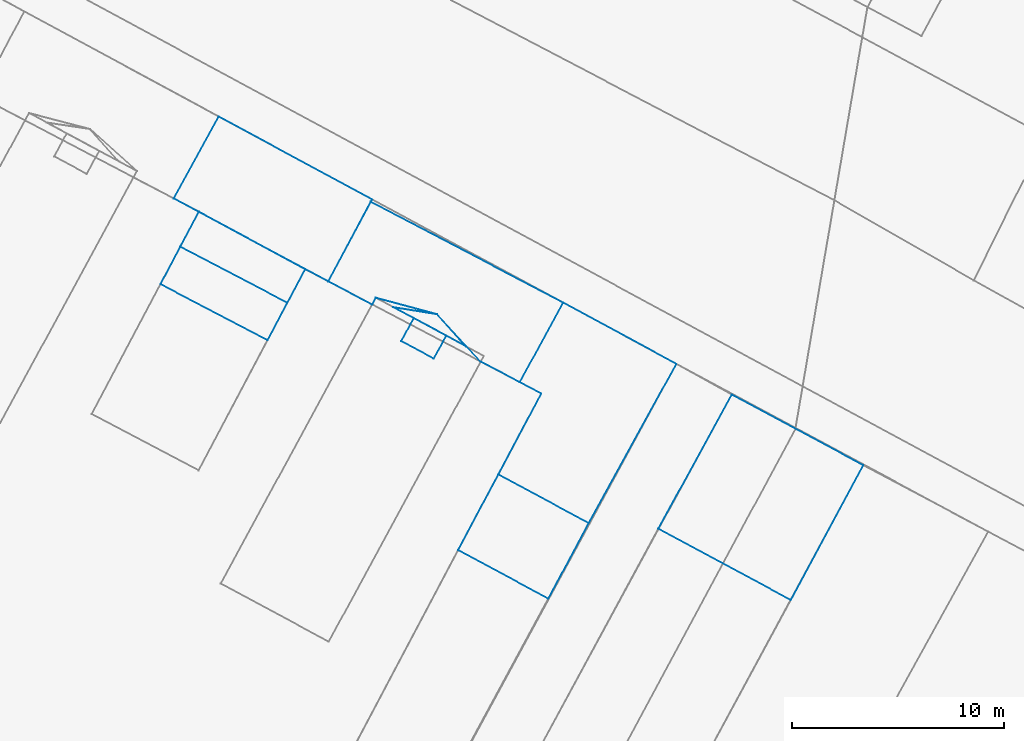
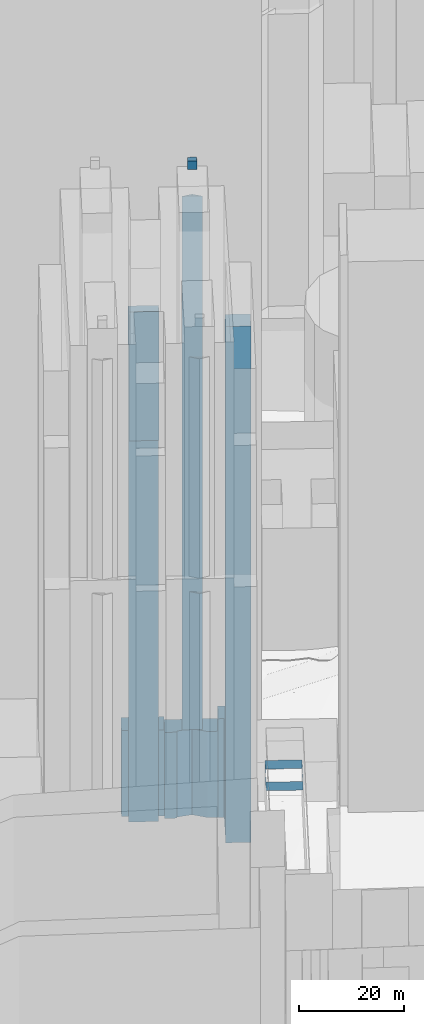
# Not in any storey, part 22 of 80: 9 walls.
"""IFC4 building model written with IfcOpenShell, lengths in metres."""

from ifc_helpers import new_model, si_unit, frame, origin_with_axes, place, context, subcontext, project, spatial, polygons, element, save


model = new_model("IFC4")

# Units and contexts
model_context = context("Model", 3, precision=1e-05, world=origin_with_axes())
body_context = subcontext(model_context, "Body", "Model", "MODEL_VIEW")
ifc_project = project(units=[si_unit("AREAUNIT", "SQUARE_METRE"), si_unit("LENGTHUNIT", "METRE")], contexts=[model_context])

# Sites, building
site_1_placement = place(None, origin_with_axes())
site_1 = spatial("IfcSite", under=ifc_project, at=site_1_placement, Name="Topoexport Site")
site_2_placement = place(site_1_placement, origin_with_axes())
site_2 = spatial("IfcSite", under=site_1, at=site_2_placement, Name="TPX_BATIMENTS")
building_1_placement = place(site_2_placement, frame((119.9102886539, 165.3278186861, 111.6038647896), z_axis=(0.0, 0.0, 1.0), x_axis=(1.0, 0.0, 0.0)))
building_1 = spatial("IfcBuilding", under=site_2, at=building_1_placement, Name="Batiment 57", CompositionType="ELEMENT")

# Wall
wall_1_placement = place(None, frame((119.9102886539, 165.3278186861, 111.6038647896), z_axis=(0.0, 0.0, 1.0), x_axis=(1.0, 0.0, 0.0)))
element("IfcWall", 1, at=wall_1_placement, inside=building_1, Name="Mur 0", context=body_context, shape_type="Tessellation", body=[
    polygons([(0.0, 0.0, 0.0), (5.0364911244, -2.6393368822, 0.0), (5.9698792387, -0.874337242, 0.0), (0.9333889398, 1.7649989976, 0.0), (0.0, 0.0, 30.0), (5.0364911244, -2.6393368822, 30.0), (5.9698792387, -0.874337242, 30.0), (0.9333889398, 1.7649989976, 30.0)], [[[6, 5, 2]], [[2, 5, 1]], [[7, 6, 3]], [[3, 6, 2]], [[5, 8, 1]], [[1, 8, 4]], [[8, 7, 4]], [[4, 7, 3]]]),
])

# Building
building_2_placement = place(site_2_placement, frame((120.8436775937, 167.0928176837, 21.6386341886), z_axis=(0.0, 0.0, 1.0), x_axis=(1.0, 0.0, 0.0)))
building_2 = spatial("IfcBuilding", under=site_2, at=building_2_placement, Name="Batiment 58", CompositionType="ELEMENT")

# Wall
wall_2_placement = place(None, frame((120.8436775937, 167.0928176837, 21.6386341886), z_axis=(0.0, 0.0, 1.0), x_axis=(1.0, 0.0, 0.0)))
element("IfcWall", 2, at=wall_2_placement, inside=building_2, Name="Mur 0", context=body_context, shape_type="Tessellation", body=[
    polygons([(0.0, 0.0, 0.0), (5.0364902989, -2.6393362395, 0.0), (5.8792260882, -1.0641279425, 0.0), (0.8757243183, 1.6422044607, 0.0), (0.0, 0.0, 90.0), (5.0364902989, -2.6393362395, 90.0), (5.8792260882, -1.0641279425, 90.0), (0.8757243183, 1.6422044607, 90.0)], [[[6, 5, 2]], [[2, 5, 1]], [[7, 6, 3]], [[3, 6, 2]], [[5, 8, 1]], [[1, 8, 4]], [[8, 7, 4]], [[4, 7, 3]]]),
])

# Building
building_3_placement = place(site_2_placement, frame((120.5302679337, 169.3651384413, 21.6421787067), z_axis=(0.0, 0.0, 1.0), x_axis=(1.0, 0.0, 0.0)))
building_3 = spatial("IfcBuilding", under=site_2, at=building_3_placement, Name="Batiment 59", CompositionType="ELEMENT")

# Wall
wall_3_placement = place(None, frame((120.5302679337, 169.3651384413, 21.6421787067), z_axis=(0.0, 0.0, 1.0), x_axis=(1.0, 0.0, 0.0)))
element("IfcWall", 3, at=wall_3_placement, inside=building_3, Name="Mur 0", context=body_context, shape_type="Tessellation", body=[
    polygons([(0.0, 0.0, 0.0), (7.2712718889, -3.9012342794, 0.0), (9.3368747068, -0.0469587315, 0.0), (2.1162476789, 3.8548618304, 0.0), (0.0, 0.0, 20.0), (7.2712718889, -3.9012342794, 20.0), (9.3368747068, -0.0469587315, 20.0), (2.1162476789, 3.8548618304, 20.0)], [[[6, 5, 2]], [[2, 5, 1]], [[7, 6, 3]], [[3, 6, 2]], [[5, 8, 1]], [[1, 8, 4]], [[8, 7, 4]], [[4, 7, 3]]]),
])

# Building
building_4_placement = place(site_2_placement, frame((127.8015398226, 165.4639041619, 21.0444509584), z_axis=(0.0, 0.0, 1.0), x_axis=(1.0, 0.0, 0.0)))
building_4 = spatial("IfcBuilding", under=site_2, at=building_4_placement, Name="Batiment 60", CompositionType="ELEMENT")

# Wall
wall_4_placement = place(None, frame((127.8015398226, 165.4639041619, 21.0444509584), z_axis=(0.0, 0.0, 1.0), x_axis=(1.0, 0.0, 0.0)))
element("IfcWall", 4, at=wall_4_placement, inside=building_4, Name="Mur 0", context=body_context, shape_type="Tessellation", body=[
    polygons([(0.0, 0.0, 0.0), (2.0724819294, -1.0972490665, 0.0), (2.2459900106, -0.7732678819, 0.0), (5.12513906, -1.5502808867, 0.0), (7.1770165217, -3.7801977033, 0.0), (9.0200620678, -4.746883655, 0.0), (11.0616303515, -1.0039073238, 0.0), (2.0078098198, 3.7425815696, 0.0), (0.0, 0.0, 20.0), (2.0724819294, -1.0972490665, 20.0), (2.2459900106, -0.7732678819, 20.0), (5.12513906, -1.5502808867, 20.0), (7.1770165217, -3.7801977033, 20.0), (9.0200620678, -4.746883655, 20.0), (11.0616303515, -1.0039073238, 20.0), (2.0078098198, 3.7425815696, 20.0)], [[[10, 9, 2]], [[2, 9, 1]], [[11, 10, 3]], [[3, 10, 2]], [[12, 11, 4]], [[4, 11, 3]], [[13, 12, 5]], [[5, 12, 4]], [[14, 13, 6]], [[6, 13, 5]], [[15, 14, 7]], [[7, 14, 6]], [[9, 16, 1]], [[1, 16, 8]], [[16, 15, 8]], [[8, 15, 7]]]),
])

# Building
building_5_placement = place(site_2_placement, frame((130.8715359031, 164.2450175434, 41.2941403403), z_axis=(0.0, 0.0, 1.0), x_axis=(1.0, 0.0, 0.0)))
building_5 = spatial("IfcBuilding", under=site_2, at=building_5_placement, Name="Batiment 61", CompositionType="ELEMENT")

# Wall
wall_5_placement = place(None, frame((130.8715359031, 164.2450175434, 41.2941403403), z_axis=(0.0, 0.0, 1.0), x_axis=(1.0, 0.0, 0.0)))
element("IfcWall", 5, at=wall_5_placement, inside=building_5, Name="Mur 0", context=body_context, shape_type="Tessellation", body=[
    polygons([(0.0, 0.0, 0.0), (0.9598263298, -0.5106541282, 0.0), (3.4234050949, -1.8476075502, 0.0), (2.0551429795, -0.3313942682, 0.0), (0.0, 0.0, 124.0), (0.9598263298, -0.5106541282, 124.0), (3.4234050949, -1.8476075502, 124.0), (2.0551429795, -0.3313942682, 124.0)], [[[6, 5, 2]], [[2, 5, 1]], [[7, 6, 3]], [[3, 6, 2]], [[5, 8, 1]], [[1, 8, 4]], [[8, 7, 4]], [[4, 7, 3]]]),
])

# Building
building_6_placement = place(site_2_placement, frame((131.2446046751, 162.6506276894, 172.3367242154), z_axis=(0.0, 0.0, 1.0), x_axis=(1.0, 0.0, 0.0)))
building_6 = spatial("IfcBuilding", under=site_2, at=building_6_placement, Name="Batiment 62", CompositionType="ELEMENT")

# Wall
wall_6_placement = place(None, frame((131.2446046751, 162.6506276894, 172.3367242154), z_axis=(0.0, 0.0, 1.0), x_axis=(1.0, 0.0, 0.0)))
element("IfcWall", 6, at=wall_6_placement, inside=building_6, Name="Mur 0", context=body_context, shape_type="Tessellation", body=[
    polygons([(0.0, 0.0, 0.0), (1.5290734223, -0.8260055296, 0.0), (2.1158308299, 0.2577303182, 0.0), (0.5867575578, 1.0837357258, 0.0), (0.0, 0.0, 2.0), (1.5290734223, -0.8260055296, 2.0), (2.1158308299, 0.2577303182, 2.0), (0.5867575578, 1.0837357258, 2.0)], [[[6, 5, 2]], [[2, 5, 1]], [[7, 6, 3]], [[3, 6, 2]], [[5, 8, 1]], [[1, 8, 4]], [[8, 7, 4]], [[4, 7, 3]]]),
])

# Building
building_7_placement = place(site_2_placement, frame((133.9167055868, 152.8117715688, 20.9084652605), z_axis=(0.0, 0.0, 1.0), x_axis=(1.0, 0.0, 0.0)))
building_7 = spatial("IfcBuilding", under=site_2, at=building_7_placement, Name="Batiment 64", CompositionType="ELEMENT")

# Wall
wall_7_placement = place(None, frame((133.9167055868, 152.8117715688, 20.9084652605), z_axis=(0.0, 0.0, 1.0), x_axis=(1.0, 0.0, 0.0)))
element("IfcWall", 7, at=wall_7_placement, inside=building_7, Name="Mur 0", context=body_context, shape_type="Tessellation", body=[
    polygons([(0.0, 0.0, 0.0), (4.2472901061, -2.2821233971, 0.0), (6.1475666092, 1.270473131, 0.0), (1.8917085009, 3.563598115, 0.0), (0.0, 0.0, 120.0), (4.2472901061, -2.2821233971, 120.0), (6.1475666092, 1.270473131, 120.0), (1.8917085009, 3.563598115, 120.0)], [[[6, 5, 2]], [[2, 5, 1]], [[7, 6, 3]], [[3, 6, 2]], [[5, 8, 1]], [[1, 8, 4]], [[8, 7, 4]], [[4, 7, 3]]]),
])

# Building
building_8_placement = place(site_2_placement, frame((135.8084140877, 156.3753696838, 20.9336598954), z_axis=(0.0, 0.0, 1.0), x_axis=(1.0, 0.0, 0.0)))
building_8 = spatial("IfcBuilding", under=site_2, at=building_8_placement, Name="Batiment 65", CompositionType="ELEMENT")

# Wall
wall_8_placement = place(None, frame((135.8084140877, 156.3753696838, 20.9336598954), z_axis=(0.0, 0.0, 1.0), x_axis=(1.0, 0.0, 0.0)))
element("IfcWall", 8, at=wall_8_placement, inside=building_8, Name="Mur 0", context=body_context, shape_type="Tessellation", body=[
    polygons([(0.0, 0.0, 0.0), (4.2558581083, -2.293124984, 0.0), (8.3810662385, 5.2044211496, 0.0), (3.0547560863, 8.0846271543, 0.0), (1.0131878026, 4.3416508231, 0.0), (2.0239153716, 3.8093843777, 0.0), (0.0, 0.0, 23.0), (4.2558581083, -2.293124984, 23.0), (8.3810662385, 5.2044211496, 23.0), (3.0547560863, 8.0846271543, 23.0), (1.0131878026, 4.3416508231, 23.0), (2.0239153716, 3.8093843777, 23.0)], [[[8, 7, 2]], [[2, 7, 1]], [[9, 8, 3]], [[3, 8, 2]], [[10, 9, 4]], [[4, 9, 3]], [[11, 10, 5]], [[5, 10, 4]], [[7, 12, 1]], [[1, 12, 6]], [[12, 11, 6]], [[6, 11, 5]]]),
])

# Building
building_9_placement = place(site_2_placement, frame((143.3426323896, 153.8205779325, 29.1035144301), z_axis=(0.0, 0.0, 1.0), x_axis=(1.0, 0.0, 0.0)))
building_9 = spatial("IfcBuilding", under=site_2, at=building_9_placement, Name="Batiment 66", CompositionType="ELEMENT")

# Wall
wall_9_placement = place(None, frame((143.3426323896, 153.8205779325, 29.1035144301), z_axis=(0.0, 0.0, 1.0), x_axis=(1.0, 0.0, 0.0)))
element("IfcWall", 9, at=wall_9_placement, inside=building_9, Name="Mur 0", context=body_context, shape_type="Tessellation", body=[
    polygons([(0.0, 0.0, 0.0), (6.235119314, -3.3581409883, 0.0), (9.6477332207, 2.9875971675, 0.0), (3.4552064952, 6.3129234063, 0.0), (0.0, 0.0, 2.0), (6.235119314, -3.3581409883, 2.0), (9.6477332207, 2.9875971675, 2.0), (3.4552064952, 6.3129234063, 2.0)], [[[6, 5, 2]], [[2, 5, 1]], [[7, 6, 3]], [[3, 6, 2]], [[5, 8, 1]], [[1, 8, 4]], [[8, 7, 4]], [[4, 7, 3]]]),
])

save(model, "model.ifc")
